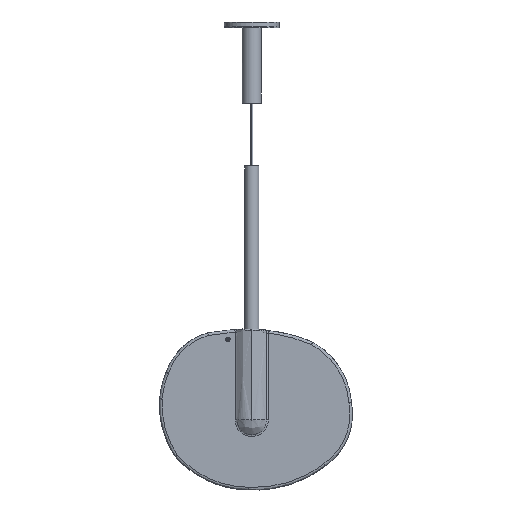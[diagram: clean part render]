
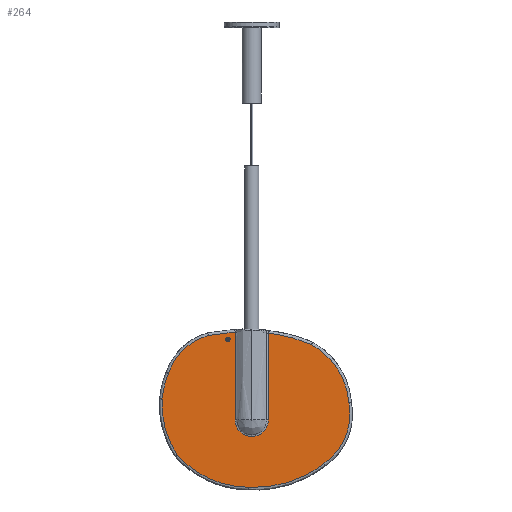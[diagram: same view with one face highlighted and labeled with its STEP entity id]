
A CAD part, front view. The second image highlights one B-rep face of the part: STEP entity #264.
In plain terms, the highlighted planar face has unit normal (0, -1, 0).
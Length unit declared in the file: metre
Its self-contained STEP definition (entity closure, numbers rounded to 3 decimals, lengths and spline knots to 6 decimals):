
#68=FACE_BOUND('',#1194,.T.);
#264=ADVANCED_FACE('',(#727,#68),#7172,.T.);
#727=FACE_OUTER_BOUND('',#1193,.T.);
#1193=EDGE_LOOP('',(#2352,#2353,#2354,#2355,#2356,#2357,#2358,#2359,#2360,
#2361,#2362,#2363));
#1194=EDGE_LOOP('',(#2364,#2365,#2366));
#2352=ORIENTED_EDGE('',*,*,#4385,.T.);
#2353=ORIENTED_EDGE('',*,*,#3988,.F.);
#2354=ORIENTED_EDGE('',*,*,#3986,.F.);
#2355=ORIENTED_EDGE('',*,*,#4386,.F.);
#2356=ORIENTED_EDGE('',*,*,#3982,.F.);
#2357=ORIENTED_EDGE('',*,*,#4417,.T.);
#2358=ORIENTED_EDGE('',*,*,#4419,.T.);
#2359=ORIENTED_EDGE('',*,*,#4421,.T.);
#2360=ORIENTED_EDGE('',*,*,#4422,.T.);
#2361=ORIENTED_EDGE('',*,*,#4414,.T.);
#2362=ORIENTED_EDGE('',*,*,#4387,.T.);
#2363=ORIENTED_EDGE('',*,*,#4410,.T.);
#2364=ORIENTED_EDGE('',*,*,#4384,.T.);
#2365=ORIENTED_EDGE('',*,*,#4380,.T.);
#2366=ORIENTED_EDGE('',*,*,#4379,.T.);
#3982=EDGE_CURVE('',#6344,#6345,#6072,.T.);
#3986=EDGE_CURVE('',#6346,#6347,#6074,.T.);
#3988=EDGE_CURVE('',#6347,#6348,#6075,.T.);
#4379=EDGE_CURVE('',#6605,#6616,#6086,.T.);
#4380=EDGE_CURVE('',#6606,#6605,#6087,.T.);
#4384=EDGE_CURVE('',#6616,#6606,#6089,.T.);
#4385=EDGE_CURVE('',#6609,#6348,#5510,.T.);
#4386=EDGE_CURVE('',#6345,#6346,#6090,.T.);
#4387=EDGE_CURVE('',#6614,#6615,#5511,.T.);
#4410=EDGE_CURVE('',#6615,#6609,#6098,.T.);
#4414=EDGE_CURVE('',#6613,#6614,#6101,.T.);
#4417=EDGE_CURVE('',#6344,#6610,#6102,.T.);
#4419=EDGE_CURVE('',#6610,#6611,#6103,.T.);
#4421=EDGE_CURVE('',#6611,#6612,#6104,.T.);
#4422=EDGE_CURVE('',#6612,#6613,#6105,.T.);
#5510=B_SPLINE_CURVE_WITH_KNOTS('',1,(#13285,#13286),.UNSPECIFIED.,.F.,
 .F.,(2,2),(0.,182.510731),.UNSPECIFIED.);
#5511=B_SPLINE_CURVE_WITH_KNOTS('',1,(#13290,#13291),.UNSPECIFIED.,.F.,
 .F.,(2,2),(0.,180.184978),.UNSPECIFIED.);
#6072=(
BOUNDED_CURVE()
B_SPLINE_CURVE(2,(#12409,#12410,#12411),.UNSPECIFIED.,.F.,.F.)
B_SPLINE_CURVE_WITH_KNOTS((3,3),(-122.914106,0.),.UNSPECIFIED.)
CURVE()
GEOMETRIC_REPRESENTATION_ITEM()
RATIONAL_B_SPLINE_CURVE((1.,0.946,1.))
REPRESENTATION_ITEM('')
);
#6074=(
BOUNDED_CURVE()
B_SPLINE_CURVE(2,(#12427,#12428,#12429),.UNSPECIFIED.,.F.,.F.)
B_SPLINE_CURVE_WITH_KNOTS((3,3),(-119.0428,0.),.UNSPECIFIED.)
CURVE()
GEOMETRIC_REPRESENTATION_ITEM()
RATIONAL_B_SPLINE_CURVE((1.,0.881,1.))
REPRESENTATION_ITEM('')
);
#6075=(
BOUNDED_CURVE()
B_SPLINE_CURVE(2,(#12436,#12437,#12438),.UNSPECIFIED.,.F.,.F.)
B_SPLINE_CURVE_WITH_KNOTS((3,3),(-56.336432,0.),.UNSPECIFIED.)
CURVE()
GEOMETRIC_REPRESENTATION_ITEM()
RATIONAL_B_SPLINE_CURVE((1.,0.997,1.))
REPRESENTATION_ITEM('')
);
#6086=(
BOUNDED_CURVE()
B_SPLINE_CURVE(2,(#13265,#13266,#13267),.UNSPECIFIED.,.F.,.F.)
B_SPLINE_CURVE_WITH_KNOTS((3,3),(-17.361775,-14.430733),
 .UNSPECIFIED.)
CURVE()
GEOMETRIC_REPRESENTATION_ITEM()
RATIONAL_B_SPLINE_CURVE((1.,0.95,1.))
REPRESENTATION_ITEM('')
);
#6087=(
BOUNDED_CURVE()
B_SPLINE_CURVE(2,(#13268,#13269,#13270,#13271,#13272),.UNSPECIFIED.,.F.,
 .F.)
B_SPLINE_CURVE_WITH_KNOTS((3,2,3),(-28.861466,-23.111621,-17.361775),
 .UNSPECIFIED.)
CURVE()
GEOMETRIC_REPRESENTATION_ITEM()
RATIONAL_B_SPLINE_CURVE((1.,0.81,1.,0.81,1.))
REPRESENTATION_ITEM('')
);
#6089=(
BOUNDED_CURVE()
B_SPLINE_CURVE(2,(#13280,#13281,#13282,#13283,#13284),.UNSPECIFIED.,.F.,
 .F.)
B_SPLINE_CURVE_WITH_KNOTS((3,2,3),(-14.430733,-7.215367,0.),
 .UNSPECIFIED.)
CURVE()
GEOMETRIC_REPRESENTATION_ITEM()
RATIONAL_B_SPLINE_CURVE((1.,0.707,1.,0.707,1.))
REPRESENTATION_ITEM('')
);
#6090=(
BOUNDED_CURVE()
B_SPLINE_CURVE(2,(#13287,#13288,#13289),.UNSPECIFIED.,.F.,.F.)
B_SPLINE_CURVE_WITH_KNOTS((3,3),(-54.97138,0.),.UNSPECIFIED.)
CURVE()
GEOMETRIC_REPRESENTATION_ITEM()
RATIONAL_B_SPLINE_CURVE((1.,0.987,1.))
REPRESENTATION_ITEM('')
);
#6098=(
BOUNDED_CURVE()
B_SPLINE_CURVE(2,(#13397,#13398,#13399,#13400,#13401),.UNSPECIFIED.,.F.,
 .F.)
B_SPLINE_CURVE_WITH_KNOTS((3,2,3),(0.,53.89139,107.782779),
 .UNSPECIFIED.)
CURVE()
GEOMETRIC_REPRESENTATION_ITEM()
RATIONAL_B_SPLINE_CURVE((1.,0.707,1.,0.707,1.))
REPRESENTATION_ITEM('')
);
#6101=(
BOUNDED_CURVE()
B_SPLINE_CURVE(2,(#13412,#13413,#13414),.UNSPECIFIED.,.F.,.F.)
B_SPLINE_CURVE_WITH_KNOTS((3,3),(0.,93.371895),.UNSPECIFIED.)
CURVE()
GEOMETRIC_REPRESENTATION_ITEM()
RATIONAL_B_SPLINE_CURVE((1.,0.99,1.))
REPRESENTATION_ITEM('')
);
#6102=(
BOUNDED_CURVE()
B_SPLINE_CURVE(2,(#13427,#13428,#13429),.UNSPECIFIED.,.F.,.F.)
B_SPLINE_CURVE_WITH_KNOTS((3,3),(0.,166.477608),.UNSPECIFIED.)
CURVE()
GEOMETRIC_REPRESENTATION_ITEM()
RATIONAL_B_SPLINE_CURVE((1.,0.915,1.))
REPRESENTATION_ITEM('')
);
#6103=(
BOUNDED_CURVE()
B_SPLINE_CURVE(2,(#13436,#13437,#13438),.UNSPECIFIED.,.F.,.F.)
B_SPLINE_CURVE_WITH_KNOTS((3,3),(0.,167.515754),.UNSPECIFIED.)
CURVE()
GEOMETRIC_REPRESENTATION_ITEM()
RATIONAL_B_SPLINE_CURVE((1.,0.937,1.))
REPRESENTATION_ITEM('')
);
#6104=(
BOUNDED_CURVE()
B_SPLINE_CURVE(2,(#13445,#13446,#13447),.UNSPECIFIED.,.F.,.F.)
B_SPLINE_CURVE_WITH_KNOTS((3,3),(0.,144.665896),.UNSPECIFIED.)
CURVE()
GEOMETRIC_REPRESENTATION_ITEM()
RATIONAL_B_SPLINE_CURVE((1.,0.837,1.))
REPRESENTATION_ITEM('')
);
#6105=(
BOUNDED_CURVE()
B_SPLINE_CURVE(2,(#13448,#13449,#13450),.UNSPECIFIED.,.F.,.F.)
B_SPLINE_CURVE_WITH_KNOTS((3,3),(0.,149.429446),.UNSPECIFIED.)
CURVE()
GEOMETRIC_REPRESENTATION_ITEM()
RATIONAL_B_SPLINE_CURVE((1.,0.88,1.))
REPRESENTATION_ITEM('')
);
#6344=VERTEX_POINT('',#11789);
#6345=VERTEX_POINT('',#11790);
#6346=VERTEX_POINT('',#11791);
#6347=VERTEX_POINT('',#11792);
#6348=VERTEX_POINT('',#11793);
#6605=VERTEX_POINT('',#12050);
#6606=VERTEX_POINT('',#12051);
#6609=VERTEX_POINT('',#12054);
#6610=VERTEX_POINT('',#12055);
#6611=VERTEX_POINT('',#12056);
#6612=VERTEX_POINT('',#12057);
#6613=VERTEX_POINT('',#12058);
#6614=VERTEX_POINT('',#12059);
#6615=VERTEX_POINT('',#12060);
#6616=VERTEX_POINT('',#12061);
#7172=PLANE('',#7629);
#7629=AXIS2_PLACEMENT_3D('',#10914,#7907,$);
#7907=DIRECTION('',(0.,-1.,0.));
#10914=CARTESIAN_POINT('',(-230.803148,-7.,4.629683));
#11789=CARTESIAN_POINT('',(-154.255288,-7.,-283.776829));
#11790=CARTESIAN_POINT('',(-185.765587,-7.,-167.274866));
#11791=CARTESIAN_POINT('',(-172.904968,-7.,-114.07487));
#11792=CARTESIAN_POINT('',(-90.129931,-7.,-35.281765));
#11793=CARTESIAN_POINT('',(-34.308324,-7.,-28.186641));
#12050=CARTESIAN_POINT('',(-54.114987,-7.,-43.46965));
#12051=CARTESIAN_POINT('',(-45.831933,-7.,-46.205801));
#12054=CARTESIAN_POINT('',(-34.308324,-7.,-210.697372));
#12055=CARTESIAN_POINT('',(-6.924738,-7.,-350.448762));
#12056=CARTESIAN_POINT('',(149.595971,-7.,-301.531496));
#12057=CARTESIAN_POINT('',(201.522625,-7.,-175.04166));
#12058=CARTESIAN_POINT('',(124.297487,-7.,-54.20684));
#12059=CARTESIAN_POINT('',(34.308324,-7.,-30.512394));
#12060=CARTESIAN_POINT('',(34.308324,-7.,-210.697372));
#12061=CARTESIAN_POINT('',(-53.211151,-7.,-40.733499));
#12409=CARTESIAN_POINT('',(-154.255288,-7.,-283.776829));
#12410=CARTESIAN_POINT('',(-189.99824,-7.,-230.931951));
#12411=CARTESIAN_POINT('',(-185.765587,-7.,-167.274866));
#12427=CARTESIAN_POINT('',(-172.904968,-7.,-114.07487));
#12428=CARTESIAN_POINT('',(-152.678477,-7.,-52.447885));
#12429=CARTESIAN_POINT('',(-90.129931,-7.,-35.281765));
#12436=CARTESIAN_POINT('',(-90.129931,-7.,-35.281765));
#12437=CARTESIAN_POINT('',(-62.516681,-7.,-29.393168));
#12438=CARTESIAN_POINT('',(-34.308324,-7.,-28.186641));
#13265=CARTESIAN_POINT('',(-54.114987,-7.,-43.46965));
#13266=CARTESIAN_POINT('',(-54.114987,-7.,-41.952292));
#13267=CARTESIAN_POINT('',(-53.211151,-7.,-40.733499));
#13268=CARTESIAN_POINT('',(-45.831933,-7.,-46.205801));
#13269=CARTESIAN_POINT('',(-47.809666,-7.,-48.872709));
#13270=CARTESIAN_POINT('',(-50.962327,-7.,-47.831287));
#13271=CARTESIAN_POINT('',(-54.114987,-7.,-46.789865));
#13272=CARTESIAN_POINT('',(-54.114987,-7.,-43.46965));
#13280=CARTESIAN_POINT('',(-53.211151,-7.,-40.733499));
#13281=CARTESIAN_POINT('',(-50.475,-7.,-37.04389));
#13282=CARTESIAN_POINT('',(-46.785391,-7.,-39.780041));
#13283=CARTESIAN_POINT('',(-43.095782,-7.,-42.516192));
#13284=CARTESIAN_POINT('',(-45.831933,-7.,-46.205801));
#13285=CARTESIAN_POINT('',(-34.308324,-7.,-210.697372));
#13286=CARTESIAN_POINT('',(-34.308324,-7.,-28.186641));
#13287=CARTESIAN_POINT('',(-185.765587,-7.,-167.274866));
#13288=CARTESIAN_POINT('',(-183.672002,-7.,-139.626504));
#13289=CARTESIAN_POINT('',(-172.904968,-7.,-114.07487));
#13290=CARTESIAN_POINT('',(34.308324,-7.,-30.512394));
#13291=CARTESIAN_POINT('',(34.308324,-7.,-210.697372));
#13397=CARTESIAN_POINT('',(34.308324,-7.,-210.697372));
#13398=CARTESIAN_POINT('',(34.308324,-7.,-245.005696));
#13399=CARTESIAN_POINT('',(0.,-7.,-245.005696));
#13400=CARTESIAN_POINT('',(-34.308324,-7.,-245.005696));
#13401=CARTESIAN_POINT('',(-34.308324,-7.,-210.697372));
#13412=CARTESIAN_POINT('',(124.297487,-7.,-54.20684));
#13413=CARTESIAN_POINT('',(81.002393,-7.,-35.905132));
#13414=CARTESIAN_POINT('',(34.308324,-7.,-30.512394));
#13427=CARTESIAN_POINT('',(-154.255288,-7.,-283.776829));
#13428=CARTESIAN_POINT('',(-95.323023,-7.,-349.66956));
#13429=CARTESIAN_POINT('',(-6.924738,-7.,-350.448762));
#13436=CARTESIAN_POINT('',(-6.924738,-7.,-350.448762));
#13437=CARTESIAN_POINT('',(80.448884,-7.,-355.149877));
#13438=CARTESIAN_POINT('',(149.595971,-7.,-301.531496));
#13445=CARTESIAN_POINT('',(149.595971,-7.,-301.531496));
#13446=CARTESIAN_POINT('',(216.850844,-7.,-255.237599));
#13447=CARTESIAN_POINT('',(201.522625,-7.,-175.04166));
#13448=CARTESIAN_POINT('',(201.522625,-7.,-175.04166));
#13449=CARTESIAN_POINT('',(195.516007,-7.,-93.785893));
#13450=CARTESIAN_POINT('',(124.297487,-7.,-54.20684));
